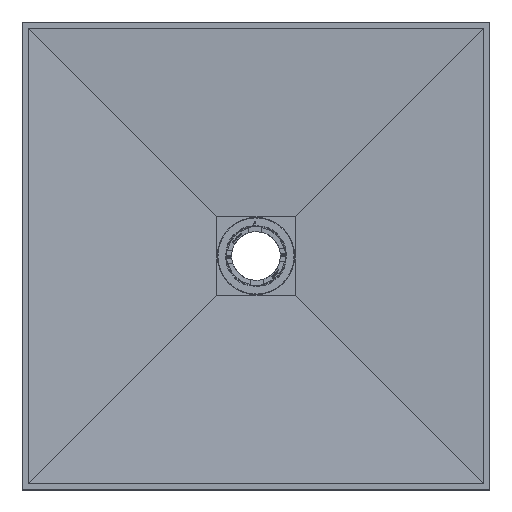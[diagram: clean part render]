
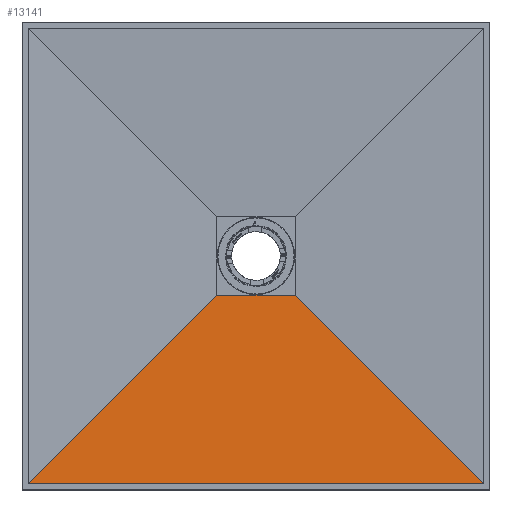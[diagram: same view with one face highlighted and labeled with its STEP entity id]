
A CAD part, top view. The second image highlights one B-rep face of the part: STEP entity #13141.
In plain terms, the highlighted planar face has unit normal (0, 0.048, 0.999).
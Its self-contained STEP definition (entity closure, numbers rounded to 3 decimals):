
#2349=FACE_OUTER_BOUND('',#3094,.T.);
#3094=EDGE_LOOP('',(#8812,#8813,#8814,#8815));
#3903=LINE('',#18664,#4524);
#3907=LINE('',#18673,#4528);
#3911=LINE('',#18679,#4532);
#3912=LINE('',#18681,#4533);
#4524=VECTOR('',#15363,10.);
#4528=VECTOR('',#15369,10.);
#4532=VECTOR('',#15377,10.);
#4533=VECTOR('',#15380,10.);
#5140=VERTEX_POINT('',#18661);
#5141=VERTEX_POINT('',#18663);
#5144=VERTEX_POINT('',#18670);
#5145=VERTEX_POINT('',#18672);
#6606=EDGE_CURVE('',#5140,#5141,#3903,.F.);
#6610=EDGE_CURVE('',#5145,#5144,#3907,.F.);
#6614=EDGE_CURVE('',#5140,#5145,#3911,.T.);
#6615=EDGE_CURVE('',#5141,#5144,#3912,.T.);
#8812=ORIENTED_EDGE('',*,*,#6606,.F.);
#8813=ORIENTED_EDGE('',*,*,#6614,.T.);
#8814=ORIENTED_EDGE('',*,*,#6610,.T.);
#8815=ORIENTED_EDGE('',*,*,#6615,.F.);
#13071=PLANE('',#13979);
#13141=ADVANCED_FACE('',(#2349),#13071,.F.);
#13979=AXIS2_PLACEMENT_3D('',#18680,#15378,#15379);
#15363=DIRECTION('',(1.,0.,0.));
#15369=DIRECTION('',(1.,0.,0.));
#15377=DIRECTION('',(-0.707,0.707,-0.034));
#15378=DIRECTION('center_axis',(0.,-0.048,-0.999));
#15379=DIRECTION('ref_axis',(-1.,0.,0.));
#15380=DIRECTION('',(0.707,0.707,-0.034));
#18661=CARTESIAN_POINT('',(-118.33,-654.77,20.));
#18663=CARTESIAN_POINT('',(-1007.27,-654.77,20.));
#18664=CARTESIAN_POINT('',(-59.15,-654.77,20.));
#18670=CARTESIAN_POINT('',(-639.27,-286.77,2.5));
#18672=CARTESIAN_POINT('',(-486.33,-286.77,2.5));
#18673=CARTESIAN_POINT('',(-340.55,-286.77,2.5));
#18679=CARTESIAN_POINT('',(-340.329,-432.771,9.443));
#18680=CARTESIAN_POINT('Origin',(-118.3,-654.741,19.999));
#18681=CARTESIAN_POINT('',(-785.271,-432.771,9.443));
